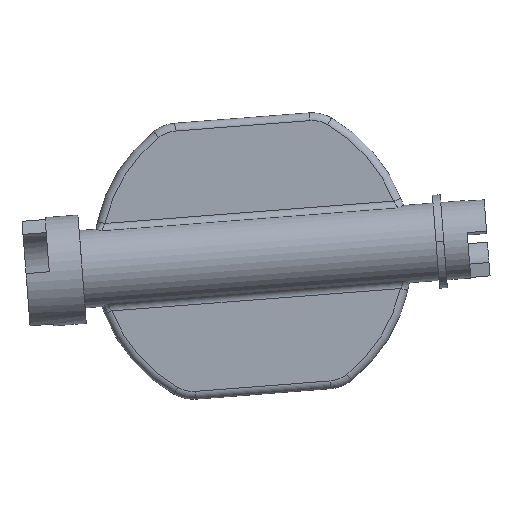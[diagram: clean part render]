
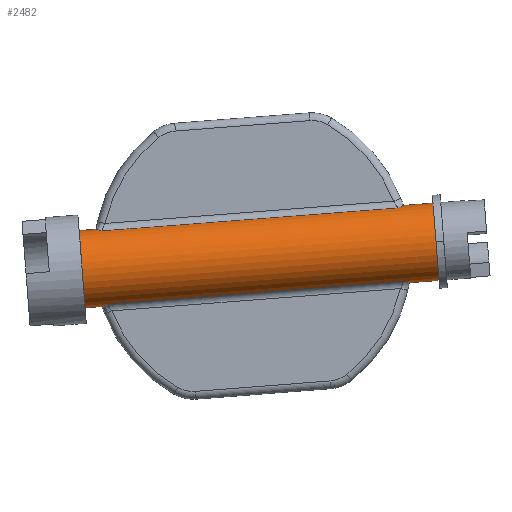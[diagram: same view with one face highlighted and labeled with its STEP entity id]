
A CAD part, front view. The second image highlights one B-rep face of the part: STEP entity #2482.
In plain terms, the highlighted cylindrical face has radius 5 mm (diameter 10 mm), a partial arc.
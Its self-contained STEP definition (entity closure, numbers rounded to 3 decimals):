
#67=CARTESIAN_POINT('',(612.111,-1.667,-135.537));
#68=CARTESIAN_POINT('',(612.03,-1.59,-135.516));
#69=CARTESIAN_POINT('',(611.881,-1.439,-135.478));
#70=CARTESIAN_POINT('',(611.698,-1.218,-135.431));
#71=CARTESIAN_POINT('',(611.557,-1.002,-135.393));
#72=CARTESIAN_POINT('',(611.455,-0.794,-135.363));
#73=CARTESIAN_POINT('',(611.387,-0.595,-135.34));
#74=CARTESIAN_POINT('',(611.348,-0.401,-135.324));
#75=CARTESIAN_POINT('',(611.341,-0.277,-135.317));
#76=CARTESIAN_POINT('',(611.341,-0.217,-135.314));
#92=CARTESIAN_POINT('',(611.341,-0.217,-135.314));
#94=CARTESIAN_POINT('',(611.341,-0.217,-135.314));
#95=CARTESIAN_POINT('',(611.342,-0.181,-135.313));
#96=CARTESIAN_POINT('',(611.342,-0.108,-135.31));
#97=CARTESIAN_POINT('',(611.342,-0.036,-135.309));
#98=CARTESIAN_POINT('',(611.342,0.,
-135.309));
#100=CARTESIAN_POINT('',(611.342,0.,
-135.309));
#120=CARTESIAN_POINT('',(612.115,0.,-145.28));
#121=CARTESIAN_POINT('',(612.115,-0.036,
-145.28));
#122=CARTESIAN_POINT('',(612.114,-0.108,
-145.279));
#123=CARTESIAN_POINT('',(612.114,-0.181,
-145.277));
#124=CARTESIAN_POINT('',(612.113,-0.217,
-145.275));
#126=CARTESIAN_POINT('',(612.113,-0.217,
-145.275));
#189=DIRECTION('',(-0.997,0.,-0.077));
#190=VECTOR('',#189,3.827);
#191=CARTESIAN_POINT('',(654.801,0.,-131.942));
#192=LINE('',#191,#190);
#197=DIRECTION('',(-0.997,0.,-0.077));
#198=VECTOR('',#197,2.177);
#199=CARTESIAN_POINT('',(611.342,0.,
-135.309));
#200=LINE('',#199,#198);
#251=CARTESIAN_POINT('',(655.187,0.,-136.927));
#252=DIRECTION('',(-0.997,0.,-0.077));
#253=DIRECTION('',(0.077,0.,-0.997));
#254=AXIS2_PLACEMENT_3D('',#251,#252,#253);
#256=DIRECTION('',(-0.997,0.,-0.077));
#257=VECTOR('',#256,3.827);
#258=CARTESIAN_POINT('',(655.573,0.,-141.912));
#259=LINE('',#258,#257);
#260=DIRECTION('',(0.997,0.,0.077));
#261=VECTOR('',#260,38.264);
#262=CARTESIAN_POINT('',(612.839,-1.667,-144.937));
#263=LINE('',#262,#261);
#264=DIRECTION('',(-0.997,0.,-0.077));
#265=VECTOR('',#264,2.177);
#266=CARTESIAN_POINT('',(612.115,0.,-145.28));
#267=LINE('',#266,#265);
#268=CARTESIAN_POINT('',(609.558,0.,-140.463));
#269=DIRECTION('',(-0.997,0.,-0.077));
#270=DIRECTION('',(0.077,0.,-0.997));
#271=AXIS2_PLACEMENT_3D('',#268,#269,#270);
#273=DIRECTION('',(-0.997,0.,-0.077));
#274=VECTOR('',#273,38.264);
#275=CARTESIAN_POINT('',(650.261,-1.667,-132.581));
#276=LINE('',#275,#274);
#585=CARTESIAN_POINT('',(650.985,0.,
-132.238));
#586=CARTESIAN_POINT('',(650.985,-0.036,
-132.238));
#587=CARTESIAN_POINT('',(650.986,-0.108,
-132.239));
#588=CARTESIAN_POINT('',(650.986,-0.181,
-132.241));
#589=CARTESIAN_POINT('',(650.987,-0.217,
-132.243));
#591=CARTESIAN_POINT('',(650.987,-0.217,
-132.243));
#613=CARTESIAN_POINT('',(651.759,-0.217,
-142.203));
#615=CARTESIAN_POINT('',(651.759,-0.217,
-142.203));
#616=CARTESIAN_POINT('',(651.758,-0.181,
-142.205));
#617=CARTESIAN_POINT('',(651.758,-0.108,
-142.207));
#618=CARTESIAN_POINT('',(651.758,-0.036,
-142.208));
#619=CARTESIAN_POINT('',(651.758,0.,
-142.208));
#1613=CARTESIAN_POINT('',(650.989,-1.667,
-141.981));
#1614=CARTESIAN_POINT('',(651.07,-1.59,
-142.002));
#1615=CARTESIAN_POINT('',(651.219,-1.439,
-142.039));
#1616=CARTESIAN_POINT('',(651.402,-1.218,
-142.086));
#1617=CARTESIAN_POINT('',(651.543,-1.002,
-142.125));
#1618=CARTESIAN_POINT('',(651.645,-0.794,
-142.155));
#1619=CARTESIAN_POINT('',(651.713,-0.595,
-142.177));
#1620=CARTESIAN_POINT('',(651.752,-0.401,
-142.194));
#1621=CARTESIAN_POINT('',(651.759,-0.277,
-142.201));
#1622=CARTESIAN_POINT('',(651.759,-0.217,
-142.203));
#1650=CARTESIAN_POINT('',(612.113,-0.217,
-145.275));
#1651=CARTESIAN_POINT('',(612.112,-0.276,
-145.272));
#1652=CARTESIAN_POINT('',(612.118,-0.399,
-145.265));
#1653=CARTESIAN_POINT('',(612.153,-0.591,
-145.243));
#1654=CARTESIAN_POINT('',(612.216,-0.791,
-145.21));
#1655=CARTESIAN_POINT('',(612.312,-1.,
-145.165));
#1656=CARTESIAN_POINT('',(612.446,-1.217,
-145.105));
#1657=CARTESIAN_POINT('',(612.62,-1.439,
-145.03));
#1658=CARTESIAN_POINT('',(612.763,-1.59,
-144.97));
#1659=CARTESIAN_POINT('',(612.839,-1.667,
-144.937));
#1661=CARTESIAN_POINT('',(650.987,-0.217,
-132.243));
#1662=CARTESIAN_POINT('',(650.988,-0.276,
-132.245));
#1663=CARTESIAN_POINT('',(650.982,-0.399,
-132.253));
#1664=CARTESIAN_POINT('',(650.947,-0.591,
-132.275));
#1665=CARTESIAN_POINT('',(650.884,-0.791,
-132.308));
#1666=CARTESIAN_POINT('',(650.788,-1.,
-132.353));
#1667=CARTESIAN_POINT('',(650.654,-1.217,
-132.413));
#1668=CARTESIAN_POINT('',(650.48,-1.439,
-132.487));
#1669=CARTESIAN_POINT('',(650.337,-1.59,
-132.548));
#1670=CARTESIAN_POINT('',(650.261,-1.667,
-132.581));
#1726=CARTESIAN_POINT('',(650.261,-1.667,
-132.581));
#1727=CARTESIAN_POINT('',(612.111,-1.667,
-135.537));
#1728=VERTEX_POINT('',#1726);
#1729=VERTEX_POINT('',#1727);
#1734=CARTESIAN_POINT('',(612.839,-1.667,
-144.937));
#1735=CARTESIAN_POINT('',(650.989,-1.667,
-141.981));
#1736=VERTEX_POINT('',#1734);
#1737=VERTEX_POINT('',#1735);
#1750=CARTESIAN_POINT('',(609.172,0.,-135.478));
#1751=CARTESIAN_POINT('',(609.944,0.,-145.448));
#1752=VERTEX_POINT('',#1750);
#1753=VERTEX_POINT('',#1751);
#1802=CARTESIAN_POINT('',(654.801,0.,-131.942));
#1803=CARTESIAN_POINT('',(655.573,0.,-141.912));
#1804=VERTEX_POINT('',#1802);
#1805=VERTEX_POINT('',#1803);
#1806=CARTESIAN_POINT('',(650.985,0.,
-132.238));
#1807=VERTEX_POINT('',#1806);
#1808=CARTESIAN_POINT('',(651.758,0.,
-142.208));
#1809=VERTEX_POINT('',#1808);
#1849=VERTEX_POINT('',#92);
#1851=VERTEX_POINT('',#591);
#1867=VERTEX_POINT('',#613);
#1870=VERTEX_POINT('',#126);
#1871=VERTEX_POINT('',#100);
#1872=VERTEX_POINT('',#120);
#2451=CARTESIAN_POINT('',(659.275,0.,-136.611));
#2452=DIRECTION('',(-0.997,0.,-0.077));
#2453=DIRECTION('',(-0.077,0.,0.997));
#2454=AXIS2_PLACEMENT_3D('',#2451,#2452,#2453);
#2455=CYLINDRICAL_SURFACE('',#2454,5.);
#2456=ORIENTED_EDGE('',*,*,#2425,.F.);
#2457=ORIENTED_EDGE('',*,*,#2365,.T.);
#2459=ORIENTED_EDGE('',*,*,#2458,.F.);
#2461=ORIENTED_EDGE('',*,*,#2460,.F.);
#2463=ORIENTED_EDGE('',*,*,#2462,.F.);
#2465=ORIENTED_EDGE('',*,*,#2464,.F.);
#2466=ORIENTED_EDGE('',*,*,#2222,.F.);
#2467=ORIENTED_EDGE('',*,*,#2354,.T.);
#2469=ORIENTED_EDGE('',*,*,#2468,.T.);
#2470=ORIENTED_EDGE('',*,*,#2350,.F.);
#2471=ORIENTED_EDGE('',*,*,#2206,.F.);
#2472=ORIENTED_EDGE('',*,*,#2193,.F.);
#2474=ORIENTED_EDGE('',*,*,#2473,.F.);
#2476=ORIENTED_EDGE('',*,*,#2475,.F.);
#2478=ORIENTED_EDGE('',*,*,#2477,.F.);
#2479=ORIENTED_EDGE('',*,*,#2341,.F.);
#2480=EDGE_LOOP('',(#2456,#2457,#2459,#2461,#2463,#2465,#2466,#2467,#2469,#2470,
#2471,#2472,#2474,#2476,#2478,#2479));
#2481=FACE_OUTER_BOUND('',#2480,.F.);
#2482=ADVANCED_FACE('',(#2481),#2455,.T.);
#77=B_SPLINE_CURVE_WITH_KNOTS('',3,(#67,#68,#69,#70,#71,#72,#73,#74,#75,#76),
.UNSPECIFIED.,.F.,.F.,(4,1,1,1,1,1,1,4),(0.,0.143,
0.286,0.429,0.571,0.714,
0.857,1.),.UNSPECIFIED.);
#99=B_SPLINE_CURVE_WITH_KNOTS('',3,(#94,#95,#96,#97,#98),.UNSPECIFIED.,.F.,.F.,(
4,1,4),(0.,0.5,1.),.UNSPECIFIED.);
#125=B_SPLINE_CURVE_WITH_KNOTS('',3,(#120,#121,#122,#123,#124),.UNSPECIFIED.,
.F.,.F.,(4,1,4),(0.,0.5,1.),.UNSPECIFIED.);
#255=CIRCLE('',#254,5.);
#272=CIRCLE('',#271,5.);
#590=B_SPLINE_CURVE_WITH_KNOTS('',3,(#585,#586,#587,#588,#589),.UNSPECIFIED.,
.F.,.F.,(4,1,4),(0.,0.5,1.),.UNSPECIFIED.);
#620=B_SPLINE_CURVE_WITH_KNOTS('',3,(#615,#616,#617,#618,#619),.UNSPECIFIED.,
.F.,.F.,(4,1,4),(0.,0.5,1.),.UNSPECIFIED.);
#1623=B_SPLINE_CURVE_WITH_KNOTS('',3,(#1613,#1614,#1615,#1616,#1617,#1618,#1619,
#1620,#1621,#1622),.UNSPECIFIED.,.F.,.F.,(4,1,1,1,1,1,1,4),(0.,
0.143,0.286,0.429,0.571,
0.714,0.857,1.),.UNSPECIFIED.);
#1660=B_SPLINE_CURVE_WITH_KNOTS('',3,(#1650,#1651,#1652,#1653,#1654,#1655,#1656,
#1657,#1658,#1659),.UNSPECIFIED.,.F.,.F.,(4,1,1,1,1,1,1,4),(0.,
0.143,0.286,0.429,0.571,
0.714,0.857,1.),.UNSPECIFIED.);
#1671=B_SPLINE_CURVE_WITH_KNOTS('',3,(#1661,#1662,#1663,#1664,#1665,#1666,#1667,
#1668,#1669,#1670),.UNSPECIFIED.,.F.,.F.,(4,1,1,1,1,1,1,4),(0.,
0.143,0.286,0.429,0.571,
0.714,0.857,1.),.UNSPECIFIED.);
#2193=EDGE_CURVE('',#1729,#1849,#77,.T.);
#2206=EDGE_CURVE('',#1849,#1871,#99,.T.);
#2222=EDGE_CURVE('',#1872,#1870,#125,.T.);
#2341=EDGE_CURVE('',#1804,#1807,#192,.T.);
#2350=EDGE_CURVE('',#1871,#1752,#200,.T.);
#2354=EDGE_CURVE('',#1872,#1753,#267,.T.);
#2365=EDGE_CURVE('',#1805,#1809,#259,.T.);
#2425=EDGE_CURVE('',#1805,#1804,#255,.T.);
#2458=EDGE_CURVE('',#1867,#1809,#620,.T.);
#2460=EDGE_CURVE('',#1737,#1867,#1623,.T.);
#2462=EDGE_CURVE('',#1736,#1737,#263,.T.);
#2464=EDGE_CURVE('',#1870,#1736,#1660,.T.);
#2468=EDGE_CURVE('',#1753,#1752,#272,.T.);
#2473=EDGE_CURVE('',#1728,#1729,#276,.T.);
#2475=EDGE_CURVE('',#1851,#1728,#1671,.T.);
#2477=EDGE_CURVE('',#1807,#1851,#590,.T.);
